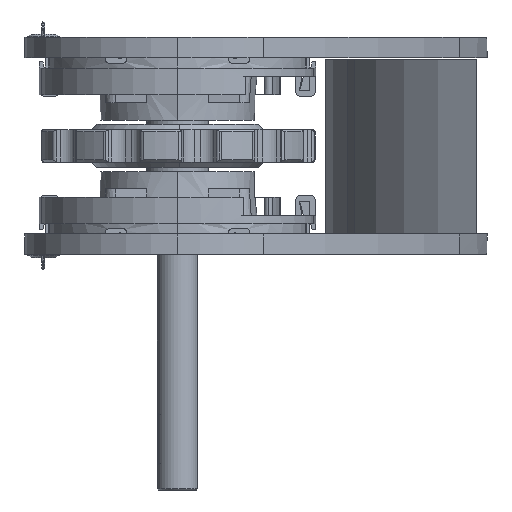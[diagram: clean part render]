
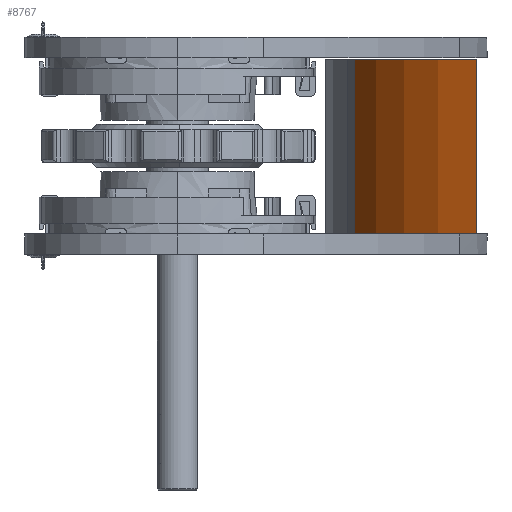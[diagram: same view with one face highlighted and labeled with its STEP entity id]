
A CAD part, left-side view. The second image highlights one B-rep face of the part: STEP entity #8767.
In plain terms, the highlighted cylindrical face has radius 126 mm (diameter 252 mm), a partial arc.
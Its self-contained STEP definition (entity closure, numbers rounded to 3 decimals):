
#722 = CARTESIAN_POINT ( 'NONE',  ( 96.264, -105.767, -15.2 ) ) ;
#723 = CARTESIAN_POINT ( 'NONE',  ( 96.264, -105.767, 69.8 ) ) ;
#724 = CARTESIAN_POINT ( 'NONE',  ( 158.5, -46.364, -15.2 ) ) ;
#725 = CARTESIAN_POINT ( 'NONE',  ( 158.5, -46.364, 69.8 ) ) ;
#1895 = LINE ( 'NONE', #2749, #1896 ) ;
#1896 = VECTOR ( 'NONE', #2750, 1000. ) ;
#1897 = CIRCLE ( 'NONE', #23159, 126. ) ;
#1898 = LINE ( 'NONE', #2757, #1900 ) ;
#1899 = CIRCLE ( 'NONE', #23160, 126. ) ;
#1900 = VECTOR ( 'NONE', #2758, 1000. ) ;
#2749 = CARTESIAN_POINT ( 'NONE',  ( 96.264, -105.767, 69.8 ) ) ;
#2750 = DIRECTION ( 'NONE',  ( 0., 0., -1. ) ) ;
#2751 = CARTESIAN_POINT ( 'NONE',  ( 209.152, -161.734, -15.2 ) ) ;
#2752 = DIRECTION ( 'NONE',  ( 0., 0., 1. ) ) ;
#2753 = DIRECTION ( 'NONE',  ( 0.914, 0.406, 0. ) ) ;
#2754 = CARTESIAN_POINT ( 'NONE',  ( 209.152, -161.734, 69.8 ) ) ;
#2755 = DIRECTION ( 'NONE',  ( 0., 0., 1. ) ) ;
#2756 = DIRECTION ( 'NONE',  ( 0.914, 0.406, 0. ) ) ;
#2757 = CARTESIAN_POINT ( 'NONE',  ( 158.5, -46.364, 69.8 ) ) ;
#2758 = DIRECTION ( 'NONE',  ( 0., 0., -1. ) ) ;
#8767 = ADVANCED_FACE ( 'NONE', ( #25506 ), #25507, .T. ) ;
#9829 = EDGE_LOOP ( 'NONE', ( #13777, #13778, #13779, #13780 ) ) ;
#10658 = VERTEX_POINT ( 'NONE', #722 ) ;
#10659 = VERTEX_POINT ( 'NONE', #723 ) ;
#10660 = VERTEX_POINT ( 'NONE', #724 ) ;
#10661 = VERTEX_POINT ( 'NONE', #725 ) ;
#12060 = EDGE_CURVE ( 'NONE', #10659, #10658, #1895, .T. ) ;
#12061 = EDGE_CURVE ( 'NONE', #10660, #10658, #1897, .T. ) ;
#12062 = EDGE_CURVE ( 'NONE', #10661, #10659, #1899, .T. ) ;
#12063 = EDGE_CURVE ( 'NONE', #10661, #10660, #1898, .T. ) ;
#13777 = ORIENTED_EDGE ( 'NONE', *, *, #12061, .T. ) ;
#13778 = ORIENTED_EDGE ( 'NONE', *, *, #12060, .F. ) ;
#13779 = ORIENTED_EDGE ( 'NONE', *, *, #12062, .F. ) ;
#13780 = ORIENTED_EDGE ( 'NONE', *, *, #12063, .T. ) ;
#22869 = AXIS2_PLACEMENT_3D ( 'NONE', #26784, #26785, #26786 ) ;
#23159 = AXIS2_PLACEMENT_3D ( 'NONE', #2751, #2752, #2753 ) ;
#23160 = AXIS2_PLACEMENT_3D ( 'NONE', #2754, #2755, #2756 ) ;
#25506 = FACE_OUTER_BOUND ( 'NONE', #9829, .T. ) ;
#25507 = CYLINDRICAL_SURFACE ( 'NONE', #22869, 126. ) ;
#26784 = CARTESIAN_POINT ( 'NONE',  ( 209.152, -161.734, 69.8 ) ) ;
#26785 = DIRECTION ( 'NONE',  ( 0., 0., -1. ) ) ;
#26786 = DIRECTION ( 'NONE',  ( -0.914, -0.406, 0. ) ) ;
